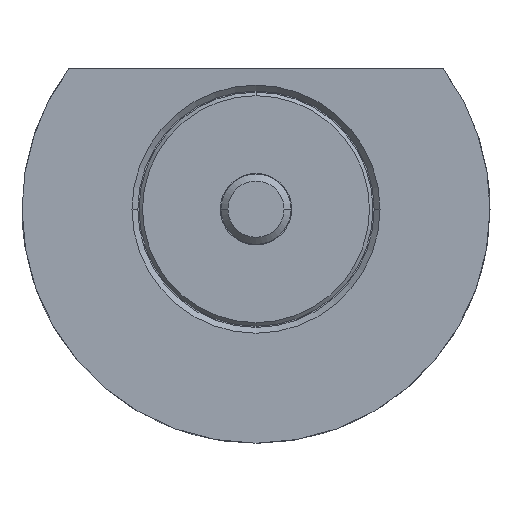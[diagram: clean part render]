
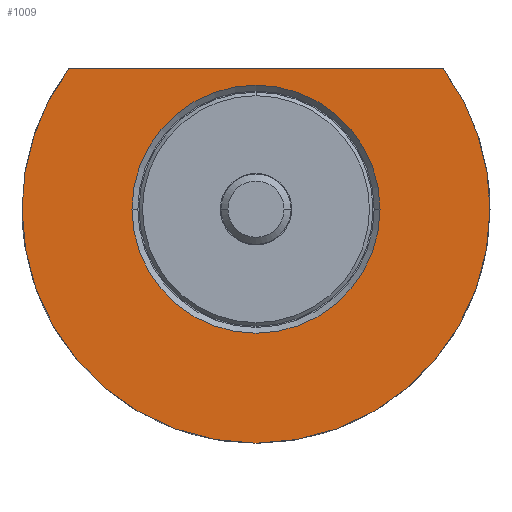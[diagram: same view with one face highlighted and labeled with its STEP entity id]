
A CAD part, front view. The second image highlights one B-rep face of the part: STEP entity #1009.
In plain terms, the highlighted planar face has unit normal (0, -1, 0).
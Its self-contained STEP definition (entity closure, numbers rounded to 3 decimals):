
#119 = AXIS2_PLACEMENT_3D ( 'NONE', #2238, #456, #1277 ) ;
#313 = VERTEX_POINT ( 'NONE', #1921 ) ;
#322 = CARTESIAN_POINT ( 'NONE',  ( -20., -10., 0. ) ) ;
#376 = EDGE_CURVE ( 'NONE', #2472, #2496, #1526, .T. ) ;
#391 = CARTESIAN_POINT ( 'NONE',  ( 0., -10., 0. ) ) ;
#402 = DIRECTION ( 'NONE',  ( 0., 1., 0. ) ) ;
#405 = CIRCLE ( 'NONE', #1675, 20. ) ;
#414 = CARTESIAN_POINT ( 'NONE',  ( 10.6, -10., 0. ) ) ;
#415 = CARTESIAN_POINT ( 'NONE',  ( 20., -10., 0. ) ) ;
#456 = DIRECTION ( 'NONE',  ( 0., -1., 0. ) ) ;
#483 = PLANE ( 'NONE',  #119 ) ;
#501 = CIRCLE ( 'NONE', #957, 20. ) ;
#631 = DIRECTION ( 'NONE',  ( -1., 0., 0. ) ) ;
#638 = FACE_BOUND ( 'NONE', #1189, .T. ) ;
#667 = FACE_OUTER_BOUND ( 'NONE', #740, .T. ) ;
#670 = ORIENTED_EDGE ( 'NONE', *, *, #1371, .T. ) ;
#684 = EDGE_CURVE ( 'NONE', #2496, #2472, #2013, .T. ) ;
#699 = CARTESIAN_POINT ( 'NONE',  ( 0., -10., 0. ) ) ;
#716 = VERTEX_POINT ( 'NONE', #1651 ) ;
#721 = ORIENTED_EDGE ( 'NONE', *, *, #684, .T. ) ;
#740 = EDGE_LOOP ( 'NONE', ( #1553, #670, #1684, #1181 ) ) ;
#751 = AXIS2_PLACEMENT_3D ( 'NONE', #699, #2299, #2551 ) ;
#875 = DIRECTION ( 'NONE',  ( -1., 0., 0. ) ) ;
#957 = AXIS2_PLACEMENT_3D ( 'NONE', #1936, #1094, #2119 ) ;
#1009 = ADVANCED_FACE ( 'NONE', ( #638, #667 ), #483, .T. ) ;
#1094 = DIRECTION ( 'NONE',  ( 0., 1., 0. ) ) ;
#1141 = AXIS2_PLACEMENT_3D ( 'NONE', #391, #402, #1202 ) ;
#1181 = ORIENTED_EDGE ( 'NONE', *, *, #2233, .F. ) ;
#1189 = EDGE_LOOP ( 'NONE', ( #721, #1261 ) ) ;
#1202 = DIRECTION ( 'NONE',  ( -1., 0., 0. ) ) ;
#1204 = CARTESIAN_POINT ( 'NONE',  ( 0., -10., 0. ) ) ;
#1260 = CARTESIAN_POINT ( 'NONE',  ( 0., -10., 0. ) ) ;
#1261 = ORIENTED_EDGE ( 'NONE', *, *, #376, .T. ) ;
#1277 = DIRECTION ( 'NONE',  ( 1., 0., 0. ) ) ;
#1371 = EDGE_CURVE ( 'NONE', #313, #716, #2442, .T. ) ;
#1392 = CARTESIAN_POINT ( 'NONE',  ( -10.6, -10., 0. ) ) ;
#1430 = DIRECTION ( 'NONE',  ( 0., 1., 0. ) ) ;
#1446 = DIRECTION ( 'NONE',  ( 0., 1., 0. ) ) ;
#1526 = CIRCLE ( 'NONE', #751, 10.6 ) ;
#1530 = EDGE_CURVE ( 'NONE', #313, #1730, #501, .T. ) ;
#1553 = ORIENTED_EDGE ( 'NONE', *, *, #1530, .F. ) ;
#1644 = CARTESIAN_POINT ( 'NONE',  ( -10.6, -10., 11.999 ) ) ;
#1651 = CARTESIAN_POINT ( 'NONE',  ( -16.001, -10., 11.999 ) ) ;
#1675 = AXIS2_PLACEMENT_3D ( 'NONE', #1204, #1430, #2177 ) ;
#1684 = ORIENTED_EDGE ( 'NONE', *, *, #2535, .F. ) ;
#1716 = AXIS2_PLACEMENT_3D ( 'NONE', #1260, #1446, #631 ) ;
#1722 = CIRCLE ( 'NONE', #1141, 20. ) ;
#1730 = VERTEX_POINT ( 'NONE', #415 ) ;
#1850 = VECTOR ( 'NONE', #875, 1000. ) ;
#1921 = CARTESIAN_POINT ( 'NONE',  ( 16.001, -10., 11.999 ) ) ;
#1936 = CARTESIAN_POINT ( 'NONE',  ( 0., -10., 0. ) ) ;
#2013 = CIRCLE ( 'NONE', #1716, 10.6 ) ;
#2119 = DIRECTION ( 'NONE',  ( -1., 0., 0. ) ) ;
#2177 = DIRECTION ( 'NONE',  ( -1., 0., 0. ) ) ;
#2233 = EDGE_CURVE ( 'NONE', #1730, #2386, #405, .T. ) ;
#2238 = CARTESIAN_POINT ( 'NONE',  ( -10.6, -10., 0. ) ) ;
#2299 = DIRECTION ( 'NONE',  ( 0., 1., 0. ) ) ;
#2386 = VERTEX_POINT ( 'NONE', #322 ) ;
#2442 = LINE ( 'NONE', #1644, #1850 ) ;
#2472 = VERTEX_POINT ( 'NONE', #1392 ) ;
#2496 = VERTEX_POINT ( 'NONE', #414 ) ;
#2535 = EDGE_CURVE ( 'NONE', #2386, #716, #1722, .T. ) ;
#2551 = DIRECTION ( 'NONE',  ( -1., 0., 0. ) ) ;
